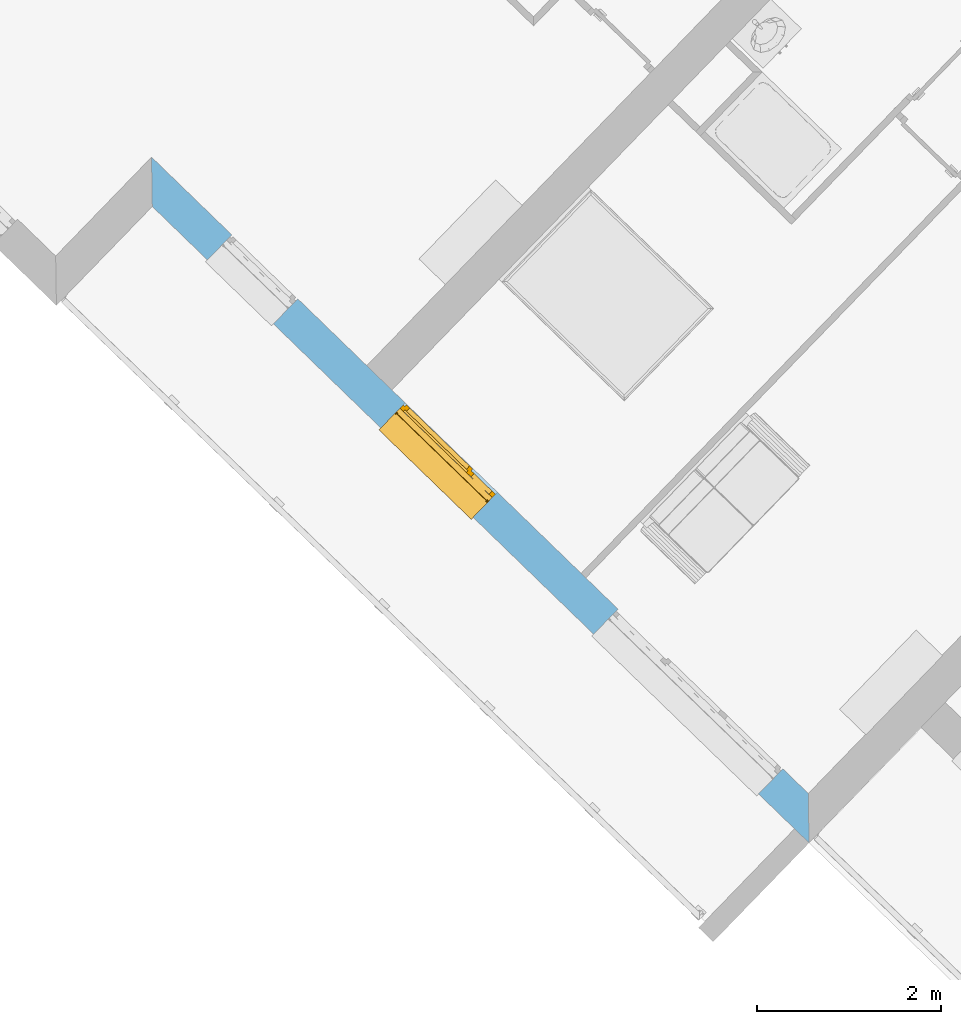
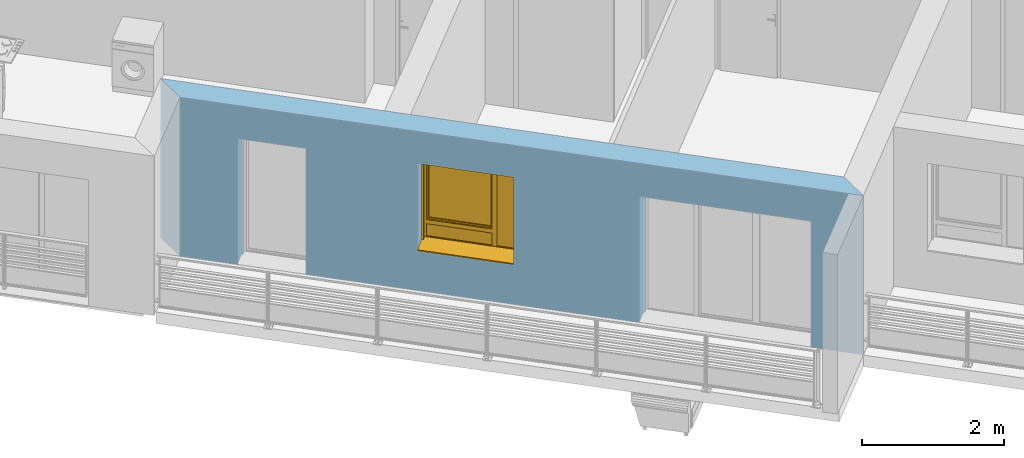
# One storey, part 9 of 121: 1 window, 3 openings, plus 1 element that does not belong to this part.
"""IFC2X3 building model written with IfcOpenShell, lengths in metres."""

from ifc_helpers import new_model, entity, si_unit, converted_unit, derived_unit, money_unit, direction, frame, origin_with_axes, place, context, subcontext, project, spatial, polyline, outline, extrude, open_shell, faceted_brep, surface_model, source, transform, mapped, material, layer, layer_set, layer_usage, type_object, element, fill, save


model = new_model("IFC2X3")

# Units and contexts
model_context = context("Model", 3, precision=1e-05, world=origin_with_axes(), true_north=direction((0.0, 1.0)))
body_context = subcontext(model_context, "Body", "Model", "MODEL_VIEW")
ifc_project = project(units=[si_unit("LENGTHUNIT", "METRE"), si_unit("AREAUNIT", "SQUARE_METRE"), si_unit("VOLUMEUNIT", "CUBIC_METRE"), converted_unit("PLANEANGLEUNIT", "DEGREE", entity("IfcPlaneAngleMeasure", 0.0174532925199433), si_unit("PLANEANGLEUNIT", "RADIAN"), dimensions=[0, 0, 0, 0, 0, 0, 0]), money_unit("CHF"), converted_unit("TIMEUNIT", "Year", entity("IfcTimeMeasure", 31557600.0), si_unit("TIMEUNIT", "SECOND"), dimensions=[0, 0, 1, 0, 0, 0, 0]), si_unit("MASSUNIT", "GRAM", prefix="KILO"), si_unit("THERMODYNAMICTEMPERATUREUNIT", "DEGREE_CELSIUS"), si_unit("LUMINOUSINTENSITYUNIT", "LUMEN"), si_unit("ENERGYUNIT", "JOULE", prefix="MEGA"), derived_unit("THERMALCONDUCTANCEUNIT", [(si_unit("POWERUNIT", "WATT"), 1), (si_unit("LENGTHUNIT", "METRE"), -1), (si_unit("THERMODYNAMICTEMPERATUREUNIT", "KELVIN"), -1)]), derived_unit("SPECIFICHEATCAPACITYUNIT", [(si_unit("ENERGYUNIT", "JOULE"), 1), (si_unit("MASSUNIT", "GRAM", prefix="KILO"), -1), (si_unit("THERMODYNAMICTEMPERATUREUNIT", "KELVIN"), -1)]), derived_unit("MASSDENSITYUNIT", [(si_unit("MASSUNIT", "GRAM", prefix="KILO"), 1), (si_unit("VOLUMEUNIT", "CUBIC_METRE"), -1)])], contexts=[model_context])

# Site, building, storey
site_placement = place(None, origin_with_axes())
site = spatial("IfcSite", under=ifc_project, at=site_placement, Name="Site", CompositionType="ELEMENT")
building_placement = place(site_placement, origin_with_axes())
building = spatial("IfcBuilding", under=site, at=building_placement, Name="Bâtiment", CompositionType="ELEMENT")
storey_placement = place(building_placement, frame((0.0, 0.0, 2.75), z_axis=(0.0, 0.0, 1.0), x_axis=(1.0, 0.0, 0.0)))
storey = spatial("IfcBuildingStorey", under=building, at=storey_placement, Name="Etage 1", CompositionType="ELEMENT", Elevation=2.75)

# Wall, openings, window
ifc_material_1 = material(Name="Parpaing 312445824")
ifc_layer_1 = layer(ifc_material_1, 0.22, ventilated="UNKNOWN")
ifc_material_2 = material(Name="Isolant styromousse 301821074")
ifc_layer_2 = layer(ifc_material_2, 0.16, ventilated="UNKNOWN")
ifc_layer_set = layer_set([ifc_layer_1, ifc_layer_2], Name="isol int 22+16 0836643197")
ifc_layer_usage = layer_usage(ifc_layer_set, "AXIS2", "NEGATIVE", 0.0)
wall_type = type_object("IfcWallType", Name="isol int 22+16 0836643197 380", PredefinedType="NOTDEFINED")
wall_placement = place(storey_placement, frame((9522.723727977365, -1071.439827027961, 57.7), z_axis=(0.0, 0.0, 1.0), x_axis=(-0.7181763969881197, 0.6958610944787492, 0.0)))
wall = element("IfcWallStandardCase", 1, at=wall_placement, inside=storey, type_object=wall_type, material=ifc_layer_usage, Name="Mur-115", context=body_context, shape_type="SweptSolid", body=[
    extrude(outline(polyline([(0.3799999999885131, -0.3800000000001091), (10.33768647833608, -0.3799999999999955), (9.957686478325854, 0.0), (0.0, 0.0), (0.3799999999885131, -0.3800000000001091)])), origin_with_axes(), (0.0, 0.0, 1.0), 2.75),
])
opening_1_placement = place(wall_placement, frame((5.7929670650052, 0.0, 0.7000000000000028), z_axis=(0.0, 0.0, 1.0), x_axis=(1.0, 0.0, 0.0)))
opening_1 = element("IfcOpeningElement", 2, at=opening_1_placement, cuts=wall, Name="Fen-045", context=body_context, shape_type="Brep", body=[
    faceted_brep([(0.6999999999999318, -0.4800000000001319, 1.5), (-0.6999999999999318, -0.4800000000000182, 1.5), (-0.7000000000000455, -5.357363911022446, 1.5), (0.6999999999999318, -5.357363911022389, 1.5), (0.6999999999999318, -0.4800000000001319, 1.700000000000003), (-0.6999999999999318, -0.4800000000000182, 1.700000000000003), (-0.6999999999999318, -0.3000000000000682, 1.5), (-0.6999999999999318, -0.3000000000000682, 0.0), (-0.7000000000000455, -5.357363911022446, 0.0), (0.6999999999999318, -5.357363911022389, 0.0), (0.6999999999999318, -0.3000000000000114, 1.5), (0.6999999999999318, -0.3000000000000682, 0.0), (0.6999999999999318, -0.2200000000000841, 1.5), (0.6999999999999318, -0.2200000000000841, 1.700000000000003), (-0.7000000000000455, -0.220000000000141, 1.700000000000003), (-0.7000000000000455, -0.220000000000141, 1.5), (-0.7000000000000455, 4.977363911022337, 1.5), (-0.7000000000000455, 4.977363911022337, 0.0), (0.6999999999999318, 4.97736391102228, 0.0), (0.6999999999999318, 4.97736391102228, 1.5)], [[[0, 1, 2, 3]], [[1, 0, 4, 5]], [[1, 6, 7, 8, 2]], [[2, 8, 9, 3]], [[10, 0, 3, 9, 11]], [[0, 10, 12, 13, 4]], [[14, 5, 4, 13]], [[6, 1, 5, 14, 15]], [[6, 15, 16, 17, 7]], [[7, 11, 9, 8]], [[12, 10, 11, 18, 19]], [[12, 15, 14, 13]], [[15, 12, 19, 16]], [[19, 18, 17, 16]], [[11, 7, 17, 18]]]),
])
opening_2_placement = place(wall_placement, frame((2.015639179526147, 0.0, 0.0), z_axis=(0.0, 0.0, 1.0), x_axis=(1.0, 0.0, 0.0)))
element("IfcOpeningElement", 3, at=opening_2_placement, cuts=wall, Name="Fen-053", context=body_context, shape_type="Brep", body=[
    faceted_brep([(1.249999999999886, -0.4799999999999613, 2.18), (-1.250000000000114, -0.4799999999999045, 2.18), (-1.25, -5.357363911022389, 2.18), (1.249999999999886, -5.357363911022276, 2.18), (1.249999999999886, -0.4799999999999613, 2.380000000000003), (-1.250000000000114, -0.4799999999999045, 2.380000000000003), (-1.25, -0.2999999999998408, 2.18), (-1.25, -0.2999999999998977, 0.0), (-1.25, -5.357363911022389, 0.0), (1.249999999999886, -5.357363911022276, 0.0), (1.249999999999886, -0.2999999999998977, 2.18), (1.249999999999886, -0.2999999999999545, 0.0), (1.249999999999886, -0.2199999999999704, 2.18), (1.249999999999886, -0.2199999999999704, 2.380000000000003), (-1.250000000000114, -0.2199999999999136, 2.380000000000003), (-1.250000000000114, -0.2199999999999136, 2.18), (-1.25, 4.977363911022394, 2.18), (-1.25, 4.977363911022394, 0.0), (1.249999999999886, 4.977363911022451, 0.0), (1.249999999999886, 4.977363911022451, 2.18)], [[[0, 1, 2, 3]], [[1, 0, 4, 5]], [[1, 6, 7, 8, 2]], [[2, 8, 9, 3]], [[10, 0, 3, 9, 11]], [[0, 10, 12, 13, 4]], [[4, 13, 14, 5]], [[6, 1, 5, 14, 15]], [[6, 15, 16, 17, 7]], [[7, 11, 9, 8]], [[12, 10, 11, 18, 19]], [[12, 15, 14, 13]], [[15, 12, 19, 16]], [[19, 18, 17, 16]], [[11, 7, 17, 18]]]),
])
opening_3_placement = place(wall_placement, frame((8.621077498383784, 0.0, 0.0), z_axis=(0.0, 0.0, 1.0), x_axis=(1.0, 0.0, 0.0)))
element("IfcOpeningElement", 4, at=opening_3_placement, cuts=wall, Name="Fen-052", context=body_context, shape_type="Brep", body=[
    faceted_brep([(0.5, -0.4800000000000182, 2.18), (-0.5, -0.4800000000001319, 2.18), (-0.5000000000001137, -5.357363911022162, 2.18), (0.5, -5.357363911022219, 2.18), (0.5, -0.4800000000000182, 2.380000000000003), (-0.5, -0.4800000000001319, 2.380000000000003), (-0.5, -0.3000000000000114, 2.18), (-0.5, -0.3000000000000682, 0.0), (-0.5000000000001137, -5.357363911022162, 0.0), (0.5, -5.357363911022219, 0.0), (0.5000000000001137, -0.2999999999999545, 2.18), (0.5000000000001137, -0.2999999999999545, 0.0), (0.5, -0.2200000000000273, 2.18), (0.5, -0.2200000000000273, 2.380000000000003), (-0.5, -0.220000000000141, 2.380000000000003), (-0.5, -0.220000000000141, 2.18), (-0.5, 4.977363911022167, 2.18), (-0.5, 4.977363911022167, 0.0), (0.5, 4.977363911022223, 0.0), (0.5, 4.977363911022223, 2.18)], [[[0, 1, 2, 3]], [[1, 0, 4, 5]], [[1, 6, 7, 8, 2]], [[2, 8, 9, 3]], [[10, 0, 3, 9, 11]], [[0, 10, 12, 13, 4]], [[4, 13, 14, 5]], [[6, 1, 5, 14, 15]], [[6, 15, 16, 17, 7]], [[7, 11, 9, 8]], [[12, 10, 11, 18, 19]], [[12, 15, 14, 13]], [[15, 12, 19, 16]], [[19, 18, 17, 16]], [[11, 7, 17, 18]]]),
])
window_style = type_object("IfcWindowStyle", Name="Fenêtre variable 27", ConstructionType="NOTDEFINED", OperationType="TRIPLE_PANEL_RIGHT", ParameterTakesPrecedence=False, Sizeable=False)
shared_shape = source(origin_with_axes(), body_context, "Body", "SurfaceModel", [
    surface_model("IfcShellBasedSurfaceModel", [(-0.7, -0.05100000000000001, 0.05), (-0.7, -0.05100000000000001, 0.04), (0.7, -0.05100000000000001, 0.04000000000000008), (0.7, -0.05100000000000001, 0.05000000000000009), (-0.7, -0.3799999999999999, 0.02899999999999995), (0.7, -0.3799999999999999, 0.02900000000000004), (-0.7, -0.3799999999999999, 0.008999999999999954), (0.7, -0.3799999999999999, 0.00900000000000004), (-0.7, -0.3699999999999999, 0.01899999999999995), (0.7, -0.3699999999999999, 0.01900000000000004)], [open_shell([[[0, 1, 2, 3]], [[1, 4, 5, 2]], [[4, 6, 7, 5]], [[6, 8, 9, 7]]])]),
    faceted_brep([(-0.7, -0.13, 1.7), (-0.697, -0.13, 1.7), (-0.697, 0.13, 1.7), (-0.7, 0.13, 1.7), (-0.7, -0.13, 1.5), (-0.697, -0.13, 1.5), (-0.697, 0.13, 1.5), (-0.7, 0.13, 1.5)], [[[0, 1, 2, 3]], [[4, 5, 1, 0]], [[1, 5, 6, 2]], [[3, 2, 6, 7]], [[0, 3, 7, 4]], [[7, 6, 5, 4]]]),
    faceted_brep([(0.6970000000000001, -0.1299999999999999, 1.7), (0.7000000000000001, -0.1299999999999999, 1.7), (0.7000000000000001, 0.1300000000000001, 1.7), (0.6970000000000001, 0.1300000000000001, 1.7), (0.6970000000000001, -0.1299999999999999, 1.5), (0.7000000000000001, -0.1299999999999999, 1.5), (0.7000000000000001, 0.1300000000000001, 1.5), (0.6970000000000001, 0.1300000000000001, 1.5)], [[[0, 1, 2, 3]], [[4, 5, 1, 0]], [[1, 5, 6, 2]], [[3, 2, 6, 7]], [[0, 3, 7, 4]], [[7, 6, 5, 4]]]),
    faceted_brep([(-0.697, -0.13, 1.5), (0.697, -0.1299999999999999, 1.5), (0.697, -0.1299999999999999, 1.7), (-0.697, -0.13, 1.7), (-0.697, -0.127, 1.5), (0.697, -0.1269999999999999, 1.5), (0.697, -0.1269999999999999, 1.697), (0.697, 0.1270000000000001, 1.697), (0.697, 0.1270000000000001, 1.503), (0.697, -0.1079999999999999, 1.503), (0.697, -0.1079999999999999, 1.5), (0.697, 0.1300000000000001, 1.5), (0.697, 0.1300000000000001, 1.7), (-0.697, 0.13, 1.7), (-0.697, 0.13, 1.5), (-0.697, -0.108, 1.5), (-0.697, -0.108, 1.503), (-0.697, 0.127, 1.503), (-0.697, 0.127, 1.697), (-0.697, -0.127, 1.697)], [[[0, 1, 2, 3]], [[4, 5, 1, 0]], [[1, 5, 6, 7, 8, 9, 10, 11, 12, 2]], [[3, 2, 12, 13]], [[0, 3, 13, 14, 15, 16, 17, 18, 19, 4]], [[19, 6, 5, 4]], [[18, 7, 6, 19]], [[17, 8, 7, 18]], [[16, 9, 8, 17]], [[15, 10, 9, 16]], [[14, 11, 10, 15]], [[13, 12, 11, 14]]]),
    faceted_brep([(-0.694, -0.08075423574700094, 1.585760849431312), (-0.694, -0.08200000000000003, 1.6), (-0.694, -0.0807542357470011, 1.614239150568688), (-0.694, -0.07705479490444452, 1.628045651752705), (-0.694, -0.07101408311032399, 1.641), (-0.694, -0.06281564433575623, 1.652708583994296), (-0.694, -0.05270858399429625, 1.662815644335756), (-0.694, -0.04100000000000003, 1.671014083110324), (-0.694, -0.02804565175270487, 1.677054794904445), (-0.694, -0.01423915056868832, 1.680754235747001), (-0.694, 0.0, 1.682), (-0.694, 0.01423915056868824, 1.680754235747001), (-0.694, 0.02804565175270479, 1.677054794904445), (-0.694, 0.04099999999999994, 1.671014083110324), (-0.694, 0.05270858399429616, 1.662815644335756), (-0.694, 0.06281564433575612, 1.652708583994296), (-0.694, 0.07101408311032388, 1.641), (-0.694, 0.0770547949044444, 1.628045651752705), (-0.694, 0.08075423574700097, 1.614239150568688), (-0.694, 0.0819999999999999, 1.6), (-0.694, 0.08075423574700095, 1.585760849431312), (-0.694, 0.07705479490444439, 1.571954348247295), (-0.694, 0.07101408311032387, 1.559), (-0.694, 0.06281564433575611, 1.547291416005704), (-0.694, 0.05270858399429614, 1.537184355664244), (-0.694, 0.04099999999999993, 1.528985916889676), (-0.694, 0.02804565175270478, 1.522945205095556), (-0.694, 0.01423915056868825, 1.519245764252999), (-0.694, 0.0, 1.518), (-0.694, -0.01423915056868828, 1.519245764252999), (-0.694, -0.02804565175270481, 1.522945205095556), (-0.694, -0.04099999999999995, 1.528985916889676), (-0.694, -0.05270858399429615, 1.537184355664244), (-0.694, -0.06281564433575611, 1.547291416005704), (-0.694, -0.07101408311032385, 1.559), (-0.694, -0.07705479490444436, 1.571954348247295), (0.694, -0.08075423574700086, 1.585760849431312), (0.694, -0.08199999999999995, 1.6), (0.694, -0.08075423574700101, 1.614239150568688), (0.694, -0.07705479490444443, 1.628045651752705), (0.694, -0.07101408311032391, 1.641), (0.694, -0.06281564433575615, 1.652708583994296), (0.694, -0.05270858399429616, 1.662815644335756), (0.694, -0.04099999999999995, 1.671014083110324), (0.694, -0.02804565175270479, 1.677054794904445), (0.694, -0.01423915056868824, 1.680754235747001), (0.694, 0.0, 1.682), (0.694, 0.01423915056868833, 1.680754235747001), (0.694, 0.02804565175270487, 1.677054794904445), (0.694, 0.04100000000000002, 1.671014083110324), (0.694, 0.05270858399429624, 1.662815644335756), (0.694, 0.0628156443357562, 1.652708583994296), (0.694, 0.07101408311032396, 1.641), (0.694, 0.07705479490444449, 1.628045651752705), (0.694, 0.08075423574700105, 1.614239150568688), (0.694, 0.08199999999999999, 1.6), (0.694, 0.08075423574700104, 1.585760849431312), (0.694, 0.07705479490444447, 1.571954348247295), (0.694, 0.07101408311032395, 1.559), (0.694, 0.06281564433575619, 1.547291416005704), (0.694, 0.05270858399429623, 1.537184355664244), (0.694, 0.04100000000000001, 1.528985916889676), (0.694, 0.02804565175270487, 1.522945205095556), (0.694, 0.01423915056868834, 1.519245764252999), (0.694, 0.0, 1.518), (0.694, -0.0142391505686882, 1.519245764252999), (0.694, -0.02804565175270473, 1.522945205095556), (0.694, -0.04099999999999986, 1.528985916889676), (0.694, -0.05270858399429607, 1.537184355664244), (0.694, -0.06281564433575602, 1.547291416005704), (0.694, -0.07101408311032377, 1.559), (0.694, -0.07705479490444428, 1.571954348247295)], [[[0, 1, 2, 3, 4, 5, 6, 7, 8, 9, 10, 11, 12, 13, 14, 15, 16, 17, 18, 19, 20, 21, 22, 23, 24, 25, 26, 27, 28, 29, 30, 31, 32, 33, 34, 35]], [[0, 36, 37, 1]], [[1, 37, 38, 2]], [[2, 38, 39, 3]], [[3, 39, 40, 4]], [[4, 40, 41, 5]], [[5, 41, 42, 6]], [[6, 42, 43, 7]], [[7, 43, 44, 8]], [[8, 44, 45, 9]], [[9, 45, 46, 10]], [[10, 46, 47, 11]], [[11, 47, 48, 12]], [[12, 48, 49, 13]], [[13, 49, 50, 14]], [[14, 50, 51, 15]], [[15, 51, 52, 16]], [[16, 52, 53, 17]], [[17, 53, 54, 18]], [[18, 54, 55, 19]], [[19, 55, 56, 20]], [[20, 56, 57, 21]], [[21, 57, 58, 22]], [[22, 58, 59, 23]], [[23, 59, 60, 24]], [[24, 60, 61, 25]], [[25, 61, 62, 26]], [[26, 62, 63, 27]], [[27, 63, 64, 28]], [[28, 64, 65, 29]], [[29, 65, 66, 30]], [[30, 66, 67, 31]], [[31, 67, 68, 32]], [[32, 68, 69, 33]], [[33, 69, 70, 34]], [[34, 70, 71, 35]], [[35, 71, 36, 0]], [[36, 71, 70, 69, 68, 67, 66, 65, 64, 63, 62, 61, 60, 59, 58, 57, 56, 55, 54, 53, 52, 51, 50, 49, 48, 47, 46, 45, 44, 43, 42, 41, 40, 39, 38, 37]]]),
    faceted_brep([(0.7, -0.105, 0.03), (0.7, -0.1049999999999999, 1.5), (0.7, -0.1299999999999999, 1.5), (0.7, -0.13, 0.03), (0.6749999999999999, -0.105, 0.03), (0.6749999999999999, -0.1049999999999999, 1.5), (0.6749999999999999, -0.1079999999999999, 1.5), (0.697, -0.1079999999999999, 1.5), (0.697, -0.1269999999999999, 1.5), (0.6749999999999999, -0.1269999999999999, 1.5), (0.6749999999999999, -0.1299999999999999, 1.5), (0.6749999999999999, -0.13, 0.03), (0.6749999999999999, -0.127, 0.03), (0.697, -0.127, 0.03), (0.697, -0.108, 0.03), (0.6749999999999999, -0.108, 0.03)], [[[0, 1, 2, 3]], [[4, 5, 1, 0]], [[1, 5, 6, 7, 8, 9, 10, 2]], [[3, 2, 10, 11]], [[0, 3, 11, 12, 13, 14, 15, 4]], [[15, 6, 5, 4]], [[14, 7, 6, 15]], [[13, 8, 7, 14]], [[12, 9, 8, 13]], [[11, 10, 9, 12]]]),
    faceted_brep([(-0.7, -0.105, 0.03), (-0.7, -0.13, 0.03), (-0.7, -0.1299999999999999, 1.5), (-0.7, -0.1049999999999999, 1.5), (-0.6749999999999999, -0.105, 0.03), (-0.6749999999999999, -0.108, 0.03), (-0.697, -0.108, 0.03), (-0.697, -0.127, 0.03), (-0.6749999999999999, -0.127, 0.03), (-0.6749999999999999, -0.13, 0.03), (-0.6749999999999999, -0.1299999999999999, 1.5), (-0.6749999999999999, -0.1269999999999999, 1.5), (-0.697, -0.1269999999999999, 1.5), (-0.697, -0.1079999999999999, 1.5), (-0.6749999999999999, -0.1079999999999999, 1.5), (-0.6749999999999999, -0.1049999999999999, 1.5)], [[[0, 1, 2, 3]], [[0, 4, 5, 6, 7, 8, 9, 1]], [[1, 9, 10, 2]], [[3, 2, 10, 11, 12, 13, 14, 15]], [[4, 0, 3, 15]], [[5, 4, 15, 14]], [[6, 5, 14, 13]], [[7, 6, 13, 12]], [[8, 7, 12, 11]], [[9, 8, 11, 10]]]),
    surface_model("IfcShellBasedSurfaceModel", [(-0.697, -0.115, 1.6), (0.697, -0.1149999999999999, 1.6), (0.697, -0.1199999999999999, 1.6), (-0.697, -0.12, 1.6), (-0.697, -0.115, 1.6), (-0.697, -0.12, 1.6), (0.697, -0.12, 1.6), (0.697, -0.1149999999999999, 1.6)], [open_shell([[[0, 1, 2, 3]], [[4, 5, 6, 7]]])]),
    faceted_brep([(-0.697, -0.115, 1.6), (0.697, -0.1149999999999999, 1.6), (0.697, -0.1166666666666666, 1.583333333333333), (-0.697, -0.1166666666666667, 1.583333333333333), (-0.697, -0.12, 1.6), (0.697, -0.1199999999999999, 1.6), (0.697, -0.1216666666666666, 1.583333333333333), (0.697, -0.1216666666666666, 1.566666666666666), (0.697, -0.1199999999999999, 1.55), (0.697, -0.1149999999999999, 1.55), (0.697, -0.1166666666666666, 1.566666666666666), (-0.697, -0.1166666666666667, 1.566666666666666), (-0.697, -0.115, 1.55), (-0.697, -0.12, 1.55), (-0.697, -0.1216666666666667, 1.566666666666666), (-0.697, -0.1216666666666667, 1.583333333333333)], [[[0, 1, 2, 3]], [[4, 5, 1, 0]], [[1, 5, 6, 7, 8, 9, 10, 2]], [[3, 2, 10, 11]], [[0, 3, 11, 12, 13, 14, 15, 4]], [[15, 6, 5, 4]], [[14, 7, 6, 15]], [[13, 8, 7, 14]], [[12, 9, 8, 13]], [[11, 10, 9, 12]]]),
    faceted_brep([(-0.697, -0.115, 1.55), (0.697, -0.1149999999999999, 1.55), (0.697, -0.1166666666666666, 1.533333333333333), (-0.697, -0.1166666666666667, 1.533333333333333), (-0.697, -0.12, 1.55), (0.697, -0.1199999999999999, 1.55), (0.697, -0.1216666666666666, 1.533333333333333), (0.697, -0.1216666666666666, 1.516666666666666), (0.697, -0.1199999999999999, 1.5), (0.697, -0.1149999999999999, 1.5), (0.697, -0.1166666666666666, 1.516666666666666), (-0.697, -0.1166666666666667, 1.516666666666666), (-0.697, -0.115, 1.5), (-0.697, -0.12, 1.5), (-0.697, -0.1216666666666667, 1.516666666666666), (-0.697, -0.1216666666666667, 1.533333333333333)], [[[0, 1, 2, 3]], [[4, 5, 1, 0]], [[1, 5, 6, 7, 8, 9, 10, 2]], [[3, 2, 10, 11]], [[0, 3, 11, 12, 13, 14, 15, 4]], [[15, 6, 5, 4]], [[14, 7, 6, 15]], [[13, 8, 7, 14]], [[12, 9, 8, 13]], [[11, 10, 9, 12]]]),
    faceted_brep([(-0.6749999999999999, 0.0, 1.45), (-0.7, 0.0, 1.45), (-0.7, -0.05000000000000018, 1.45), (-0.6499999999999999, -0.05000000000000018, 1.45), (-0.6499999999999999, -0.02500000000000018, 1.45), (-0.6749999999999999, -0.02500000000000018, 1.45), (-0.6749999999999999, 0.0, 0.3099999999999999), (-0.6499999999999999, 0.0, 0.3099999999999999), (-0.6499999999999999, 0.0, 0.265), (-0.6499999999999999, 0.0, 0.05000000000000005), (-0.7, 0.0, 0.05000000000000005), (-0.7, -0.05000000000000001, 0.05000000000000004), (-0.6499999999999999, -0.05000000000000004, 0.335), (-0.6499999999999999, -0.05000000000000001, 0.05000000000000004), (-0.6499999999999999, -0.05000000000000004, 0.265), (-0.6499999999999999, -0.02500000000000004, 0.335), (-0.6499999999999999, -0.02500000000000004, 0.3099999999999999), (-0.6749999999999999, -0.02500000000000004, 0.3099999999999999)], [[[0, 1, 2, 3, 4, 5]], [[6, 7, 8, 9, 10, 1, 0]], [[1, 10, 11, 2]], [[12, 3, 2, 11, 13, 14]], [[4, 3, 12, 15]], [[15, 16, 17, 5, 4]], [[5, 17, 6, 0]], [[6, 17, 16, 7]], [[16, 15, 12, 14, 8, 7]], [[9, 8, 14, 13]], [[10, 9, 13, 11]]]),
    faceted_brep([(0.3068894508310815, -0.02500000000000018, 1.45), (0.3068894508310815, -0.05000000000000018, 1.45), (0.3768894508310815, -0.05000000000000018, 1.45), (0.3768894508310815, 0.0, 1.45), (0.3318894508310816, 0.0, 1.45), (0.3318894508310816, -0.02500000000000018, 1.45), (0.3068894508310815, -0.02500000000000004, 0.335), (0.3068894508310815, -0.05000000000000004, 0.335), (0.3068894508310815, -0.05000000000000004, 0.265), (0.3068894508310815, -0.05000000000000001, 0.05000000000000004), (0.3768894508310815, -0.05000000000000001, 0.05000000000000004), (0.3768894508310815, 0.0, 0.05000000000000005), (0.3318894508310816, 0.0, 0.3099999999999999), (0.3068894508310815, 0.0, 0.05000000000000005), (0.3068894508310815, 0.0, 0.265), (0.3068894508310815, 0.0, 0.3099999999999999), (0.3318894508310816, -0.02500000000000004, 0.3099999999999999), (0.3068894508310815, -0.02500000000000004, 0.3099999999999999)], [[[0, 1, 2, 3, 4, 5]], [[6, 7, 1, 0]], [[8, 9, 10, 2, 1, 7]], [[11, 3, 2, 10]], [[12, 4, 3, 11, 13, 14, 15]], [[12, 16, 5, 4]], [[5, 16, 17, 6, 0]], [[17, 15, 14, 8, 7, 6]], [[14, 13, 9, 8]], [[13, 11, 10, 9]], [[15, 17, 16, 12]]]),
    faceted_brep([(-0.6499999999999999, -0.02500000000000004, 0.335), (-0.6499999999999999, -0.05000000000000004, 0.335), (0.3068894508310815, -0.05000000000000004, 0.335), (0.3068894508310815, -0.02500000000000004, 0.335), (-0.6499999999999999, -0.02500000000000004, 0.3099999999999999), (-0.6499999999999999, 0.0, 0.3099999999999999), (-0.6499999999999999, 0.0, 0.265), (-0.6499999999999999, -0.05000000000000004, 0.265), (0.3068894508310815, -0.05000000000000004, 0.265), (0.3068894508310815, -0.02500000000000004, 0.3099999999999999), (0.3068894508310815, 0.0, 0.265), (0.3068894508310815, 0.0, 0.3099999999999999)], [[[0, 1, 2, 3]], [[4, 5, 6, 7, 1, 0]], [[2, 1, 7, 8]], [[9, 3, 2, 8, 10, 11]], [[9, 4, 0, 3]], [[5, 4, 9, 11]], [[11, 10, 6, 5]], [[6, 10, 8, 7]]]),
    faceted_brep([(-0.6749999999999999, 0.0, 1.45), (-0.7, 0.0, 1.45), (-0.7, 0.0, 1.5), (0.7, 0.0, 1.5), (0.7, 0.0, 1.45), (0.6499999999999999, 0.0, 1.45), (0.3768894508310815, 0.0, 1.45), (0.3318894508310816, 0.0, 1.45), (0.3318894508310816, 0.0, 1.475), (-0.6749999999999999, 0.0, 1.475), (-0.6749999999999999, -0.02500000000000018, 1.45), (-0.6499999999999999, -0.02500000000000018, 1.45), (-0.6499999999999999, -0.05000000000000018, 1.45), (-0.7, -0.05000000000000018, 1.45), (-0.7, -0.05000000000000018, 1.5), (0.7, -0.05000000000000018, 1.5), (0.7, -0.05000000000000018, 1.45), (0.6499999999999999, -0.05000000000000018, 1.45), (0.3768894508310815, -0.05000000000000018, 1.45), (0.3318894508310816, -0.02500000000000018, 1.45), (0.3068894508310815, -0.05000000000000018, 1.45), (0.3068894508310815, -0.02500000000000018, 1.45), (0.3318894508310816, -0.02500000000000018, 1.475), (-0.6749999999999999, -0.02500000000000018, 1.475)], [[[0, 1, 2, 3, 4, 5, 6, 7, 8, 9]], [[10, 11, 12, 13, 1, 0]], [[2, 1, 13, 14]], [[3, 2, 14, 15]], [[4, 3, 15, 16]], [[5, 4, 16, 17]], [[6, 5, 17, 18]], [[19, 7, 6, 18, 20, 21]], [[7, 19, 22, 8]], [[8, 22, 23, 9]], [[9, 23, 10, 0]], [[21, 11, 10, 23, 22, 19]], [[21, 20, 12, 11]], [[18, 17, 16, 15, 14, 13, 12, 20]]]),
    faceted_brep([(0.6499999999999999, -0.05000000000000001, 0.05), (0.6499999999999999, 0.0, 0.05000000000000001), (0.7, 0.0, 0.05000000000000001), (0.7, -0.05000000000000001, 0.05), (0.6499999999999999, -0.05000000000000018, 1.45), (0.6499999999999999, 0.0, 1.45), (0.7, 0.0, 1.45), (0.7, -0.05000000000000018, 1.45)], [[[0, 1, 2, 3]], [[4, 5, 1, 0]], [[1, 5, 6, 2]], [[3, 2, 6, 7]], [[0, 3, 7, 4]], [[7, 6, 5, 4]]]),
    faceted_brep([(-0.6499999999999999, -0.05000000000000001, 0.05), (-0.6499999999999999, 0.0, 0.05000000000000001), (-0.7, 0.0, 0.05000000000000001), (-0.7, -0.05000000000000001, 0.05), (0.3068894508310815, -0.05000000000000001, 0.05), (0.3068894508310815, 0.0, 0.05000000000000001), (0.3768894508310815, 0.0, 0.05000000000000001), (0.6499999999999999, 0.0, 0.05000000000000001), (0.7, 0.0, 0.05000000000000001), (0.7, 0.0, 0.0), (-0.7, 0.0, 0.0), (-0.7, -0.05, 0.0), (0.7, -0.05, 0.0), (0.7, -0.05000000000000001, 0.05), (0.6499999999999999, -0.05000000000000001, 0.05), (0.3768894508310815, -0.05000000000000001, 0.05)], [[[0, 1, 2, 3]], [[4, 5, 1, 0]], [[1, 5, 6, 7, 8, 9, 10, 2]], [[3, 2, 10, 11]], [[0, 3, 11, 12, 13, 14, 15, 4]], [[15, 6, 5, 4]], [[14, 7, 6, 15]], [[13, 8, 7, 14]], [[12, 9, 8, 13]], [[11, 10, 9, 12]]]),
    faceted_brep([(-0.625, -0.02500000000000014, 1.425), (-0.625, 0.02499999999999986, 1.425), (-0.6749999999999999, 0.02499999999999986, 1.425), (-0.6749999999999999, -0.02500000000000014, 1.425), (-0.625, -0.02500000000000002, 0.3599999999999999), (-0.625, 0.02499999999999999, 0.3599999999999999), (-0.6749999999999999, 0.02499999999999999, 0.3599999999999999), (-0.6749999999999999, -0.02500000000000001, 0.3599999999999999)], [[[0, 1, 2, 3]], [[4, 5, 1, 0]], [[1, 5, 6, 2]], [[3, 2, 6, 7]], [[0, 3, 7, 4]], [[7, 6, 5, 4]]]),
    faceted_brep([(0.2818894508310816, -0.02500000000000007, 0.3599999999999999), (0.2818894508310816, 0.02499999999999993, 0.3599999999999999), (0.3318894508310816, 0.02499999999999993, 0.3599999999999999), (0.3318894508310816, -0.02500000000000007, 0.3599999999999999), (0.2818894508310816, -0.0250000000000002, 1.425), (0.2818894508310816, 0.0249999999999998, 1.425), (0.3318894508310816, 0.0249999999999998, 1.425), (0.3318894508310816, -0.0250000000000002, 1.425)], [[[0, 1, 2, 3]], [[4, 5, 1, 0]], [[1, 5, 6, 2]], [[3, 2, 6, 7]], [[0, 3, 7, 4]], [[7, 6, 5, 4]]]),
    faceted_brep([(0.3318894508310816, -0.02500000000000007, 0.3099999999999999), (0.3318894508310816, 0.02499999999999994, 0.3099999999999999), (0.3318894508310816, 0.02499999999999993, 0.3599999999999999), (0.3318894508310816, -0.02500000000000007, 0.3599999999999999), (-0.6749999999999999, -0.025, 0.3099999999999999), (-0.6749999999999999, 0.02499999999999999, 0.3099999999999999), (-0.6749999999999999, 0.02499999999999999, 0.3599999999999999), (-0.625, 0.02499999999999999, 0.3599999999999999), (0.2818894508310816, 0.02499999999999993, 0.3599999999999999), (0.2818894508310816, -0.02500000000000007, 0.3599999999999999), (-0.625, -0.02500000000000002, 0.3599999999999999), (-0.6749999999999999, -0.02500000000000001, 0.3599999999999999)], [[[0, 1, 2, 3]], [[4, 5, 1, 0]], [[1, 5, 6, 7, 8, 2]], [[3, 2, 8, 9]], [[0, 3, 9, 10, 11, 4]], [[11, 6, 5, 4]], [[10, 7, 6, 11]], [[9, 8, 7, 10]]]),
    faceted_brep([(-0.6749999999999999, -0.02500000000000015, 1.475), (-0.6749999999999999, 0.02499999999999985, 1.475), (-0.6749999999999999, 0.02499999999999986, 1.425), (-0.6749999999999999, -0.02500000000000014, 1.425), (0.3318894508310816, -0.02500000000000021, 1.475), (0.3318894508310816, 0.02499999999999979, 1.475), (0.3318894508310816, 0.0249999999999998, 1.425), (0.2818894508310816, 0.0249999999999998, 1.425), (-0.625, 0.02499999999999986, 1.425), (-0.625, -0.02500000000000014, 1.425), (0.2818894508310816, -0.0250000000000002, 1.425), (0.3318894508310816, -0.0250000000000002, 1.425)], [[[0, 1, 2, 3]], [[4, 5, 1, 0]], [[1, 5, 6, 7, 8, 2]], [[3, 2, 8, 9]], [[0, 3, 9, 10, 11, 4]], [[11, 6, 5, 4]], [[10, 7, 6, 11]], [[9, 8, 7, 10]]]),
    surface_model("IfcShellBasedSurfaceModel", [(-0.625, -0.01000000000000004, 0.3599999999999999), (0.2818894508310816, -0.01000000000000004, 0.3599999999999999), (0.2818894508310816, -0.01000000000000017, 1.425), (-0.625, -0.01000000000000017, 1.425)], [open_shell([[[0, 1, 2, 3]]])]),
    surface_model("IfcShellBasedSurfaceModel", [(-0.625, 0.009999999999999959, 0.3599999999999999), (-0.625, 0.00999999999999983, 1.425), (0.2818894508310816, 0.00999999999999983, 1.425), (0.2818894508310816, 0.009999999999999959, 0.3599999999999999)], [open_shell([[[0, 1, 2, 3]]])]),
    surface_model("IfcShellBasedSurfaceModel", [(0.3768894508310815, -0.035, 0.05), (0.65, -0.035, 0.05), (0.65, -0.03500000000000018, 1.45), (0.3768894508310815, -0.03500000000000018, 1.45)], [open_shell([[[0, 1, 2, 3]]])]),
    surface_model("IfcShellBasedSurfaceModel", [(0.3768894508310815, -0.015, 0.05), (0.3768894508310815, -0.01500000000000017, 1.45), (0.65, -0.01500000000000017, 1.45), (0.65, -0.015, 0.05)], [open_shell([[[0, 1, 2, 3]]])]),
    surface_model("IfcShellBasedSurfaceModel", [(-0.6499999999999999, -0.035, 0.05), (0.3068894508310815, -0.035, 0.05), (0.3068894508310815, -0.03500000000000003, 0.265), (-0.6499999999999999, -0.03500000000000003, 0.265)], [open_shell([[[0, 1, 2, 3]]])]),
    surface_model("IfcShellBasedSurfaceModel", [(-0.6499999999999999, -0.015, 0.05), (-0.6499999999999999, -0.01500000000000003, 0.265), (0.3068894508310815, -0.01500000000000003, 0.265), (0.3068894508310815, -0.015, 0.05)], [open_shell([[[0, 1, 2, 3]]])]),
])
window_placement = place(opening_1_placement, frame((0.7000000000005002, 0.0, 0.0), z_axis=(0.0, 0.0, 1.0), x_axis=(-1.0, 0.0, 0.0)))
window = element("IfcWindow", 5, at=window_placement, inside=storey, type_object=window_style, Name="Fen-045", OverallHeight=1.5, OverallWidth=1.4, context=body_context, shape_type="MappedRepresentation", body=[
    mapped(shared_shape, transform((0.6999999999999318, 0.3500000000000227, 0.0))),
])
fill(opening_1, window)

save(model, "model.ifc")
